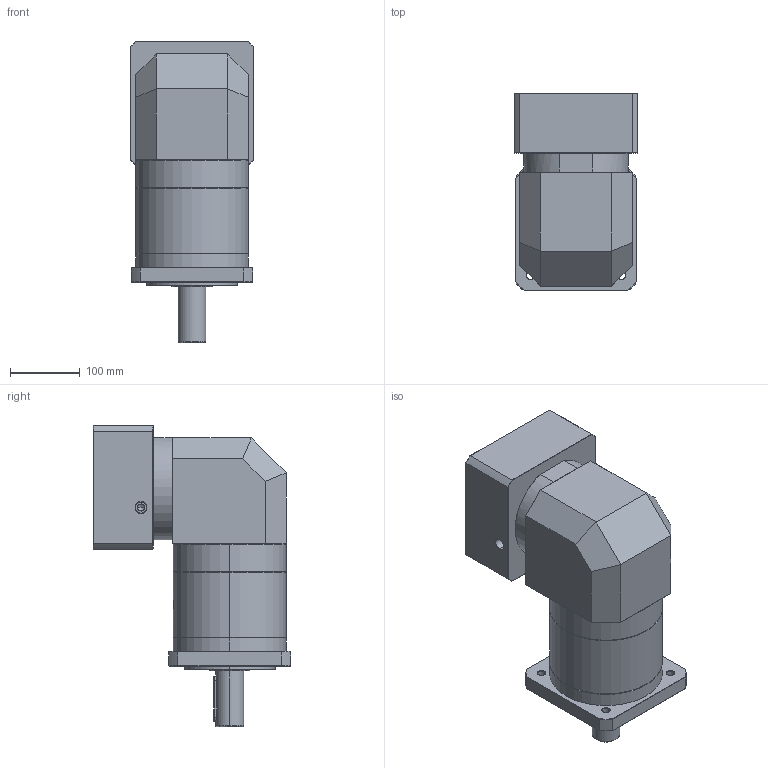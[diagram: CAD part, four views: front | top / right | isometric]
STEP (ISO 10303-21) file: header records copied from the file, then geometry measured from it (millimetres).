
FILE_DESCRIPTION (( 'STEP AP214' ), '1' );
FILE_NAME ('ZFR160A-D40-L3-P2-42-114.3-200-M12.step', '2023-09-03T09:00:08', ( '' ), ( '' ), 'SwSTEP 2.0', 'SolidWorks 2016', '' );
FILE_SCHEMA (( 'AUTOMOTIVE_DESIGN' ));
Length unit declared in the file: millimetre
Products named in the file (1): ZFR160A-D40-L3-P2-42-114.3-200-M12
Bounding box: 178 x 283.5 x 432.7 mm (x, y, z)
Volume: 9559690.8 mm3; surface area: 543247.4 mm2
Topology: 6 solids, 6 shells, 2197 faces, 5800 edges, 3711 vertices
Faces by surface type: plane 1046, bspline 410, cylinder 406, cone 313, torus 22
Entity records: 124963 total; most frequent: CARTESIAN_POINT 51743, ORIENTED_EDGE 11540, DIRECTION 8375, EDGE_CURVE 5770, VERTEX_POINT 3711, VECTOR 3091, LINE 3091, AXIS2_PLACEMENT_3D 2642
